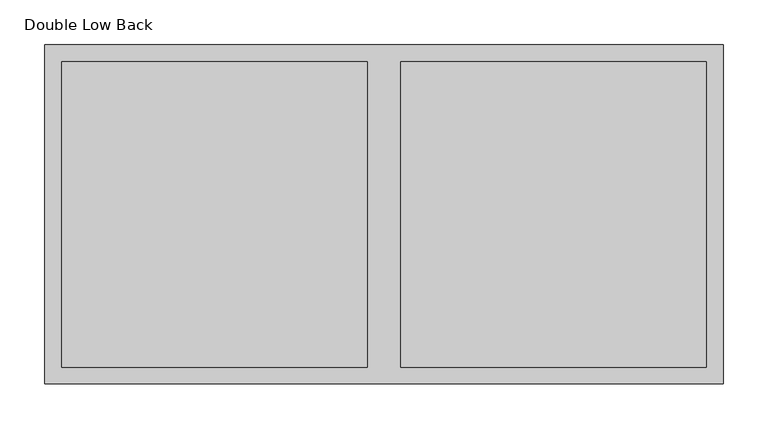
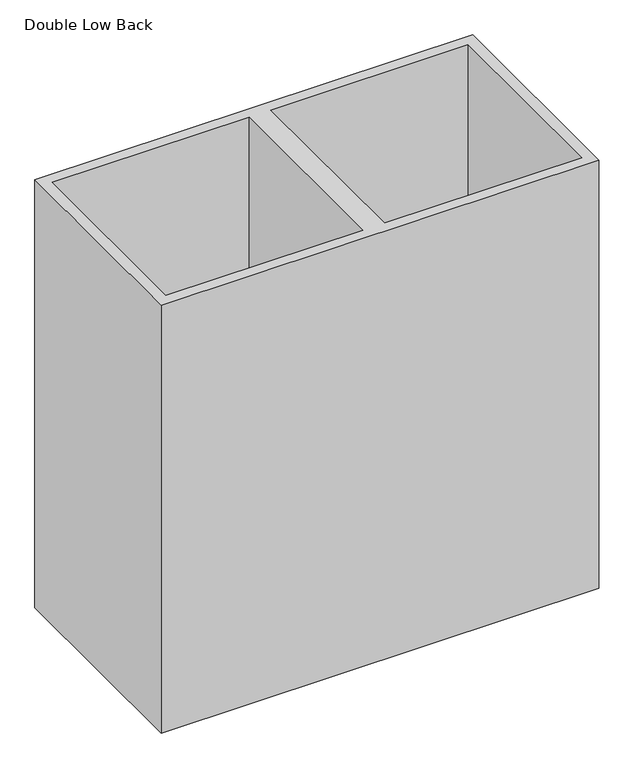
"""IFC4 building model written with IfcOpenShell, lengths in millimetres: furniture geometry, Profim - Lunea - Planter : Double Low Back."""

import ifcopenshell
import ifcopenshell.guid

model = None  # the IFC model being written
_history = None  # IfcOwnerHistory: only IFC2X3 demands one
_inside = {}  # id of a spatial element -> (the spatial element, [elements in it])
_under = {}  # id of a project, library or spatial element -> (it, [spatial elements below it])
_declared = {}  # id of a project -> (the project, [libraries it declares])
_typed = {}  # id of a type object -> (the type object, [elements of that type])
_made_of = {}  # id of a material, layer set ... -> (it, [elements and type objects made of it])


def new_model(schema):
    """Start an empty IFC model of exactly this schema.

    Asked for "IFC4X3", IfcOpenShell would pick the latest addendum, in which some entities
    have other attributes; the version numbers below select the first issue.
    IFC2X3 requires an IfcOwnerHistory on every rooted entity: one is made here for all.
    """
    global model, _history
    if schema == "IFC4X3":
        model = ifcopenshell.file(schema_version=(4, 3, 0, 0))
    else:
        model = ifcopenshell.file(schema=schema)
    _inside.clear()
    _under.clear()
    _declared.clear()
    _typed.clear()
    _made_of.clear()
    _history = None
    if model.schema == "IFC2X3":
        org = make("IfcOrganization", Name="unknown")
        user = make(
            "IfcPersonAndOrganization",
            ThePerson=make("IfcPerson", FamilyName="unknown"),
            TheOrganization=org,
        )
        app = make(
            "IfcApplication",
            ApplicationDeveloper=org,
            Version="unknown",
            ApplicationFullName="unknown",
            ApplicationIdentifier="unknown",
        )
        _history = make(
            "IfcOwnerHistory",
            OwningUser=user,
            OwningApplication=app,
            ChangeAction="ADDED",
            CreationDate=0,
        )
    return model


def make(cls, **values):
    """One entity of the class cls with the attributes given. An attribute that is None is left unset."""
    return model.create_entity(
        cls, **{name: value for name, value in values.items() if value is not None}
    )


def rooted(cls, **values):
    """An entity with a GlobalId (a new one), such as an element, a storey or a relation."""
    return make(cls, GlobalId=ifcopenshell.guid.new(), OwnerHistory=_history, **values)


def si_unit(unit_type, name, prefix=None):
    """IfcSIUnit, for example si_unit("LENGTHUNIT", "METRE", prefix="MILLI")."""
    return make("IfcSIUnit", UnitType=unit_type, Prefix=prefix, Name=name)


def assignment(units):
    """IfcUnitAssignment: the units of a project."""
    return None if units is None else make("IfcUnitAssignment", Units=units)


def point(xyz):
    """IfcCartesianPoint."""
    return None if xyz is None else make("IfcCartesianPoint", Coordinates=xyz)


def direction(xyz):
    """IfcDirection."""
    return None if xyz is None else make("IfcDirection", DirectionRatios=xyz)


def frame(location, z_axis=None, x_axis=None):
    """IfcAxis2Placement3D, a coordinate frame: its origin and axes. An axis left out is left unset."""
    return make(
        "IfcAxis2Placement3D",
        Location=point(location),
        Axis=direction(z_axis),
        RefDirection=direction(x_axis),
    )


def origin():
    """The frame at (0, 0, 0) with its axes left unset."""
    return frame((0.0, 0.0, 0.0))


def place(relative_to, where):
    """IfcLocalPlacement: puts the frame where relative to a parent placement (None: the world)."""
    return make(
        "IfcLocalPlacement", PlacementRelTo=relative_to, RelativePlacement=where
    )


def context(
    kind, dimensions, precision=None, world=None, true_north=None, identifier=None
):
    """IfcGeometricRepresentationContext, for example the 3D "Model" context."""
    return make(
        "IfcGeometricRepresentationContext",
        ContextIdentifier=identifier,
        ContextType=kind,
        CoordinateSpaceDimension=dimensions,
        Precision=precision,
        WorldCoordinateSystem=world,
        TrueNorth=true_north,
    )


def project(units=None, contexts=None):
    """IfcProject with its units and contexts."""
    return rooted(
        "IfcProject",
        Name="project",
        RepresentationContexts=contexts,
        UnitsInContext=assignment(units),
    )


def spatial(cls, under=None, at=None, **own):
    """A site, building, storey or space (cls), placed at a placement, below another one or the project."""
    s = rooted(cls, ObjectPlacement=at, **own)
    if under is not None:
        _under.setdefault(under.id(), (under, []))[1].append(s)
    return s


def faces_of(points, faces, orient=None, outer=None):
    """IfcFace entities. A face is a list of loops; a loop is a list of indices into points, from 0.

    orient and outer hold one flag for each loop. By default every Orientation is true, the
    first loop of a face is its IfcFaceOuterBound and the others are IfcFaceBound.
    """
    made = []
    for i, loops in enumerate(faces):
        bounds = []
        for j, loop in enumerate(loops):
            is_outer = j == 0 if outer is None else outer[i][j]
            bounds.append(
                make(
                    "IfcFaceOuterBound" if is_outer else "IfcFaceBound",
                    Bound=make("IfcPolyLoop", Polygon=[points[k] for k in loop]),
                    Orientation=True if orient is None else orient[i][j],
                )
            )
        made.append(make("IfcFace", Bounds=bounds))
    return made


def faceted_brep(points, faces, orient=None, outer=None, voids=None):
    """IfcFacetedBrep: a solid bounded by flat faces; with voids (closed shells), ...WithVoids."""
    shared = [point(p) for p in points]
    hull = make("IfcClosedShell", CfsFaces=faces_of(shared, faces, orient, outer))
    if voids is None:
        return make("IfcFacetedBrep", Outer=hull)
    return make(
        "IfcFacetedBrepWithVoids",
        Outer=hull,
        Voids=[
            make(cls, CfsFaces=faces_of(shared, fs, o, b)) for cls, fs, o, b in voids
        ],
    )


def shape(context_of_items, identifier, shape_type, items):
    """IfcShapeRepresentation: the items that make up one representation, for example the "Body"."""
    return make(
        "IfcShapeRepresentation",
        ContextOfItems=context_of_items,
        RepresentationIdentifier=identifier,
        RepresentationType=shape_type,
        Items=items,
    )


def source(mapping_origin, context_of_items, identifier, shape_type, items):
    """IfcRepresentationMap: a shape defined once, which mapped items show again and again."""
    return make(
        "IfcRepresentationMap",
        MappingOrigin=mapping_origin,
        MappedRepresentation=shape(context_of_items, identifier, shape_type, items),
    )


def transform(
    local_origin,
    x_axis=None,
    y_axis=None,
    z_axis=None,
    scale=None,
    scale2=None,
    scale3=None,
    uniform=True,
):
    """IfcCartesianTransformationOperator3D, or its non-uniform kind. x_axis, y_axis, z_axis: its Axis1, 2, 3."""
    if uniform:
        return make(
            "IfcCartesianTransformationOperator3D",
            Axis1=direction(x_axis),
            Axis2=direction(y_axis),
            LocalOrigin=point(local_origin),
            Scale=scale,
            Axis3=direction(z_axis),
        )
    return make(
        "IfcCartesianTransformationOperator3DnonUniform",
        Axis1=direction(x_axis),
        Axis2=direction(y_axis),
        LocalOrigin=point(local_origin),
        Scale=scale,
        Axis3=direction(z_axis),
        Scale2=scale2,
        Scale3=scale3,
    )


def mapped(mapping_source, mapping_target):
    """IfcMappedItem: shows the shape of a source again, moved by a transform."""
    return make(
        "IfcMappedItem", MappingSource=mapping_source, MappingTarget=mapping_target
    )


def made_of(thing, what):
    """Note that an element or type object is made of a material, layer set ...; save() writes the relation."""
    if what is not None:
        _made_of.setdefault(what.id(), (what, []))[1].append(thing)
    return thing


def element(
    cls,
    number,
    at=None,
    inside=None,
    cuts=None,
    type_object=None,
    material=None,
    context=None,
    identifier="Body",
    shape_type=None,
    held_by="IfcProductDefinitionShape",
    body=None,
    shapes=None,
    **own,
):
    """One element of the class cls, such as IfcWall. Its Tag is "e" and its number.

    at: its placement. inside: the storey or other place that contains it. cuts: it is an
    opening in that element (IfcRelVoidsElement). A single representation is given by context,
    identifier, shape_type and body (its items); several are given by shapes. held_by: the class
    of the entity that holds the representations. save() writes the other relations.
    """
    e = rooted(cls, Tag="e%d" % number, ObjectPlacement=at, **own)
    if body is not None:
        shapes = [shape(context, identifier, shape_type, body)]
    if shapes is not None:
        e.Representation = make(held_by, Representations=shapes)
    if inside is not None:
        _inside.setdefault(inside.id(), (inside, []))[1].append(e)
    if cuts is not None:
        rooted(
            "IfcRelVoidsElement", RelatingBuildingElement=cuts, RelatedOpeningElement=e
        )
    if type_object is not None:
        _typed.setdefault(type_object.id(), (type_object, []))[1].append(e)
    return made_of(e, material)


def aggregate(whole, parts):
    """IfcRelAggregates: a whole, such as a stair, and the parts it consists of."""
    return rooted("IfcRelAggregates", RelatingObject=whole, RelatedObjects=parts)


def save(model, path):
    """Write the relations noted so far, then the file.

    IfcRelAggregates (storeys below a building ...), IfcRelContainedInSpatialStructure (elements
    in a storey), IfcRelDefinesByType, IfcRelAssociatesMaterial and IfcRelDeclares: one each for
    every whole, place, type object, material and project.
    """
    for whole, parts in _under.values():
        aggregate(whole, parts)
    for where, things in _inside.values():
        rooted(
            "IfcRelContainedInSpatialStructure",
            RelatedElements=things,
            RelatingStructure=where,
        )
    for kind, things in _typed.values():
        rooted("IfcRelDefinesByType", RelatedObjects=things, RelatingType=kind)
    for what, things in _made_of.values():
        rooted("IfcRelAssociatesMaterial", RelatedObjects=things, RelatingMaterial=what)
    for by, libraries in _declared.values():
        rooted("IfcRelDeclares", RelatingContext=by, RelatedDefinitions=libraries)
    model.write(path)


def double_low_back_5ed0384f(model_context):
    return source(origin(), model_context, "Body", "Brep", [
        faceted_brep([(381.0, 190.5, 787.4), (-381.0, 190.5, 787.4), (-381.0, -190.5, 787.4), (381.0, -190.5, 787.4), (19.05, -171.45, 787.4), (19.05, 171.45, 787.4), (361.95, 171.45, 787.4), (361.95, -171.45, 787.4), (-19.05, 171.45, 787.4), (-19.05, -171.45, 787.4), (-361.95, -171.45, 787.4), (-361.95, 171.45, 787.4), (381.0, 190.5, 0.0), (381.0, -190.5, 0.0), (-381.0, -190.5, 0.0), (-381.0, 190.5, 0.0), (19.05, 171.45, 508.0), (19.05, -171.45, 508.0), (361.95, -171.45, 508.0), (361.95, 171.45, 508.0), (-19.05, 171.45, 508.0), (-361.95, 171.45, 508.0), (-361.95, -171.45, 508.0), (-19.05, -171.45, 508.0)], [[[0, 1, 2, 3], [4, 5, 6, 7], [8, 9, 10, 11]], [[12, 13, 14, 15]], [[1, 0, 12, 15]], [[2, 1, 15, 14]], [[3, 2, 14, 13]], [[0, 3, 13, 12]], [[16, 17, 18, 19]], [[17, 16, 5, 4]], [[18, 17, 4, 7]], [[19, 18, 7, 6]], [[16, 19, 6, 5]], [[20, 21, 22, 23]], [[20, 23, 9, 8]], [[23, 22, 10, 9]], [[22, 21, 11, 10]], [[21, 20, 8, 11]]]),
    ])


if __name__ == "__main__":
    model = new_model("IFC4")
    model_context = context("Model", 3, world=origin())
    ifc_project = project(units=[si_unit("LENGTHUNIT", "METRE", prefix="MILLI")], contexts=[model_context])
    site = spatial("IfcSite", under=ifc_project)
    building = spatial("IfcBuilding", under=site)
    placement = place(None, origin())
    double_low_back_shape = double_low_back_5ed0384f(model_context)
    element("IfcFurniture", 1, ObjectType="Profim - Lunea - Planter : Double Low Back", at=placement, inside=building, context=model_context, shape_type="MappedRepresentation", body=[
        mapped(double_low_back_shape, transform((0.0, 0.0, 0.0), x_axis=(1.0, 0.0, 0.0), y_axis=(0.0, 1.0, 0.0), z_axis=(0.0, 0.0, 1.0))),
    ])
    save(model, "model.ifc")
